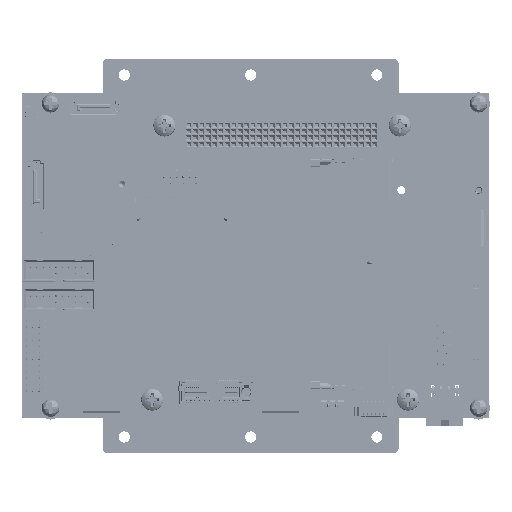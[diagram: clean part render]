
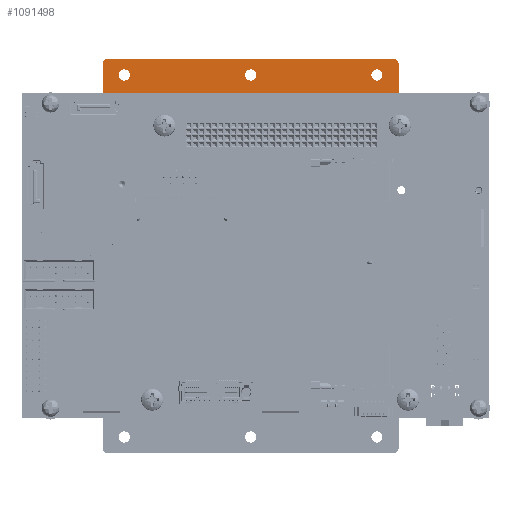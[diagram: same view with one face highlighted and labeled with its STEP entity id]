
A CAD part, top view. The second image highlights one B-rep face of the part: STEP entity #1091498.
In plain terms, the highlighted planar face has unit normal (0, 0, 1) as drawn and (0, -1, 0) by its records, which use the part's own axes.
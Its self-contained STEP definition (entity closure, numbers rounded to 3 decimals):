
#1091087=CARTESIAN_POINT('',(-44.8,0.,-1.5));
#1091088=DIRECTION('',(0.,-1.,0.));
#1091089=DIRECTION('',(0.,0.,1.));
#1091090=AXIS2_PLACEMENT_3D('',#1091087,#1091088,#1091089);
#1091092=DIRECTION('',(1.,0.,0.));
#1091093=VECTOR('',#1091092,89.6);
#1091094=CARTESIAN_POINT('',(-44.8,0.,0.));
#1091095=LINE('',#1091094,#1091093);
#1091096=CARTESIAN_POINT('',(44.8,0.,-1.5));
#1091097=DIRECTION('',(0.,-1.,0.));
#1091098=DIRECTION('',(1.,0.,0.));
#1091099=AXIS2_PLACEMENT_3D('',#1091096,#1091097,#1091098);
#1091101=DIRECTION('',(0.,0.,-1.));
#1091102=VECTOR('',#1091101,16.);
#1091103=CARTESIAN_POINT('',(46.3,0.,-1.5));
#1091104=LINE('',#1091103,#1091102);
#1091105=CARTESIAN_POINT('',(44.8,0.,-17.5));
#1091106=DIRECTION('',(0.,-1.,0.));
#1091107=DIRECTION('',(0.,0.,-1.));
#1091108=AXIS2_PLACEMENT_3D('',#1091105,#1091106,#1091107);
#1091110=DIRECTION('',(-1.,0.,0.));
#1091111=VECTOR('',#1091110,89.6);
#1091112=CARTESIAN_POINT('',(44.8,0.,-19.));
#1091113=LINE('',#1091112,#1091111);
#1091114=CARTESIAN_POINT('',(-44.8,0.,-17.5));
#1091115=DIRECTION('',(0.,-1.,0.));
#1091116=DIRECTION('',(-1.,0.,0.));
#1091117=AXIS2_PLACEMENT_3D('',#1091114,#1091115,#1091116);
#1091119=DIRECTION('',(0.,0.,1.));
#1091120=VECTOR('',#1091119,16.);
#1091121=CARTESIAN_POINT('',(-46.3,0.,-17.5));
#1091122=LINE('',#1091121,#1091120);
#1091123=CARTESIAN_POINT('',(-39.5,0.,-14.));
#1091124=DIRECTION('',(0.,1.,0.));
#1091125=DIRECTION('',(1.,0.,0.));
#1091126=AXIS2_PLACEMENT_3D('',#1091123,#1091124,#1091125);
#1091128=CARTESIAN_POINT('',(-39.5,0.,-14.));
#1091129=DIRECTION('',(0.,1.,0.));
#1091130=DIRECTION('',(-1.,0.,0.));
#1091131=AXIS2_PLACEMENT_3D('',#1091128,#1091129,#1091130);
#1091133=CARTESIAN_POINT('',(39.5,0.,-14.));
#1091134=DIRECTION('',(0.,1.,0.));
#1091135=DIRECTION('',(1.,0.,0.));
#1091136=AXIS2_PLACEMENT_3D('',#1091133,#1091134,#1091135);
#1091138=CARTESIAN_POINT('',(39.5,0.,-14.));
#1091139=DIRECTION('',(0.,1.,0.));
#1091140=DIRECTION('',(-1.,0.,0.));
#1091141=AXIS2_PLACEMENT_3D('',#1091138,#1091139,#1091140);
#1091143=CARTESIAN_POINT('',(0.,0.,-14.));
#1091144=DIRECTION('',(0.,1.,0.));
#1091145=DIRECTION('',(1.,0.,0.));
#1091146=AXIS2_PLACEMENT_3D('',#1091143,#1091144,#1091145);
#1091148=CARTESIAN_POINT('',(0.,0.,-14.));
#1091149=DIRECTION('',(0.,1.,0.));
#1091150=DIRECTION('',(-1.,0.,0.));
#1091151=AXIS2_PLACEMENT_3D('',#1091148,#1091149,#1091150);
#1091153=CARTESIAN_POINT('',(-39.5,0.,-5.));
#1091154=DIRECTION('',(0.,-1.,0.));
#1091155=DIRECTION('',(1.,0.,0.));
#1091156=AXIS2_PLACEMENT_3D('',#1091153,#1091154,#1091155);
#1091158=CARTESIAN_POINT('',(-39.5,0.,-5.));
#1091159=DIRECTION('',(0.,-1.,0.));
#1091160=DIRECTION('',(-1.,0.,0.));
#1091161=AXIS2_PLACEMENT_3D('',#1091158,#1091159,#1091160);
#1091163=CARTESIAN_POINT('',(39.5,0.,-5.));
#1091164=DIRECTION('',(0.,-1.,0.));
#1091165=DIRECTION('',(1.,0.,0.));
#1091166=AXIS2_PLACEMENT_3D('',#1091163,#1091164,#1091165);
#1091168=CARTESIAN_POINT('',(39.5,0.,-5.));
#1091169=DIRECTION('',(0.,-1.,0.));
#1091170=DIRECTION('',(-1.,0.,0.));
#1091171=AXIS2_PLACEMENT_3D('',#1091168,#1091169,#1091170);
#1091173=CARTESIAN_POINT('',(0.,0.,-5.));
#1091174=DIRECTION('',(0.,-1.,0.));
#1091175=DIRECTION('',(1.,0.,0.));
#1091176=AXIS2_PLACEMENT_3D('',#1091173,#1091174,#1091175);
#1091178=CARTESIAN_POINT('',(0.,0.,-5.));
#1091179=DIRECTION('',(0.,-1.,0.));
#1091180=DIRECTION('',(-1.,0.,0.));
#1091181=AXIS2_PLACEMENT_3D('',#1091178,#1091179,#1091180);
#1091359=CARTESIAN_POINT('',(-44.8,0.,0.));
#1091360=CARTESIAN_POINT('',(-46.3,0.,-1.5));
#1091361=VERTEX_POINT('',#1091359);
#1091362=VERTEX_POINT('',#1091360);
#1091367=CARTESIAN_POINT('',(46.3,0.,-1.5));
#1091368=CARTESIAN_POINT('',(44.8,0.,0.));
#1091369=VERTEX_POINT('',#1091367);
#1091370=VERTEX_POINT('',#1091368);
#1091375=CARTESIAN_POINT('',(44.8,0.,-19.));
#1091376=CARTESIAN_POINT('',(46.3,0.,-17.5));
#1091377=VERTEX_POINT('',#1091375);
#1091378=VERTEX_POINT('',#1091376);
#1091383=CARTESIAN_POINT('',(-46.3,0.,-17.5));
#1091384=CARTESIAN_POINT('',(-44.8,0.,-19.));
#1091385=VERTEX_POINT('',#1091383);
#1091386=VERTEX_POINT('',#1091384);
#1091391=CARTESIAN_POINT('',(-37.75,0.,-14.));
#1091392=CARTESIAN_POINT('',(-41.25,0.,-14.));
#1091393=VERTEX_POINT('',#1091391);
#1091394=VERTEX_POINT('',#1091392);
#1091395=CARTESIAN_POINT('',(41.25,0.,-14.));
#1091396=CARTESIAN_POINT('',(37.75,0.,-14.));
#1091397=VERTEX_POINT('',#1091395);
#1091398=VERTEX_POINT('',#1091396);
#1091411=CARTESIAN_POINT('',(-37.75,0.,-5.));
#1091412=CARTESIAN_POINT('',(-41.25,0.,-5.));
#1091413=VERTEX_POINT('',#1091411);
#1091414=VERTEX_POINT('',#1091412);
#1091419=CARTESIAN_POINT('',(41.25,0.,-5.));
#1091420=CARTESIAN_POINT('',(37.75,0.,-5.));
#1091421=VERTEX_POINT('',#1091419);
#1091422=VERTEX_POINT('',#1091420);
#1091423=CARTESIAN_POINT('',(1.75,0.,-14.));
#1091424=CARTESIAN_POINT('',(-1.75,0.,-14.));
#1091425=VERTEX_POINT('',#1091423);
#1091426=VERTEX_POINT('',#1091424);
#1091435=CARTESIAN_POINT('',(1.75,0.,-5.));
#1091436=CARTESIAN_POINT('',(-1.75,0.,-5.));
#1091437=VERTEX_POINT('',#1091435);
#1091438=VERTEX_POINT('',#1091436);
#1091439=CARTESIAN_POINT('',(0.,0.,0.));
#1091440=DIRECTION('',(0.,1.,0.));
#1091441=DIRECTION('',(1.,0.,0.));
#1091442=AXIS2_PLACEMENT_3D('',#1091439,#1091440,#1091441);
#1091443=PLANE('',#1091442);
#1091445=ORIENTED_EDGE('',*,*,#1091444,.F.);
#1091447=ORIENTED_EDGE('',*,*,#1091446,.T.);
#1091449=ORIENTED_EDGE('',*,*,#1091448,.F.);
#1091451=ORIENTED_EDGE('',*,*,#1091450,.T.);
#1091453=ORIENTED_EDGE('',*,*,#1091452,.F.);
#1091455=ORIENTED_EDGE('',*,*,#1091454,.T.);
#1091457=ORIENTED_EDGE('',*,*,#1091456,.F.);
#1091459=ORIENTED_EDGE('',*,*,#1091458,.T.);
#1091460=EDGE_LOOP('',(#1091445,#1091447,#1091449,#1091451,#1091453,#1091455,
#1091457,#1091459));
#1091461=FACE_OUTER_BOUND('',#1091460,.F.);
#1091463=ORIENTED_EDGE('',*,*,#1091462,.F.);
#1091465=ORIENTED_EDGE('',*,*,#1091464,.F.);
#1091466=EDGE_LOOP('',(#1091463,#1091465));
#1091467=FACE_BOUND('',#1091466,.F.);
#1091469=ORIENTED_EDGE('',*,*,#1091468,.F.);
#1091471=ORIENTED_EDGE('',*,*,#1091470,.F.);
#1091472=EDGE_LOOP('',(#1091469,#1091471));
#1091473=FACE_BOUND('',#1091472,.F.);
#1091475=ORIENTED_EDGE('',*,*,#1091474,.F.);
#1091477=ORIENTED_EDGE('',*,*,#1091476,.F.);
#1091478=EDGE_LOOP('',(#1091475,#1091477));
#1091479=FACE_BOUND('',#1091478,.F.);
#1091481=ORIENTED_EDGE('',*,*,#1091480,.T.);
#1091483=ORIENTED_EDGE('',*,*,#1091482,.T.);
#1091484=EDGE_LOOP('',(#1091481,#1091483));
#1091485=FACE_BOUND('',#1091484,.F.);
#1091487=ORIENTED_EDGE('',*,*,#1091486,.T.);
#1091489=ORIENTED_EDGE('',*,*,#1091488,.T.);
#1091490=EDGE_LOOP('',(#1091487,#1091489));
#1091491=FACE_BOUND('',#1091490,.F.);
#1091493=ORIENTED_EDGE('',*,*,#1091492,.T.);
#1091495=ORIENTED_EDGE('',*,*,#1091494,.T.);
#1091496=EDGE_LOOP('',(#1091493,#1091495));
#1091497=FACE_BOUND('',#1091496,.F.);
#1091498=ADVANCED_FACE('',(#1091461,#1091467,#1091473,#1091479,#1091485,
#1091491,#1091497),#1091443,.F.);
#1091091=CIRCLE('',#1091090,1.5);
#1091100=CIRCLE('',#1091099,1.5);
#1091109=CIRCLE('',#1091108,1.5);
#1091118=CIRCLE('',#1091117,1.5);
#1091127=CIRCLE('',#1091126,1.75);
#1091132=CIRCLE('',#1091131,1.75);
#1091137=CIRCLE('',#1091136,1.75);
#1091142=CIRCLE('',#1091141,1.75);
#1091147=CIRCLE('',#1091146,1.75);
#1091152=CIRCLE('',#1091151,1.75);
#1091157=CIRCLE('',#1091156,1.75);
#1091162=CIRCLE('',#1091161,1.75);
#1091167=CIRCLE('',#1091166,1.75);
#1091172=CIRCLE('',#1091171,1.75);
#1091177=CIRCLE('',#1091176,1.75);
#1091182=CIRCLE('',#1091181,1.75);
#1091444=EDGE_CURVE('',#1091361,#1091362,#1091091,.T.);
#1091446=EDGE_CURVE('',#1091361,#1091370,#1091095,.T.);
#1091448=EDGE_CURVE('',#1091369,#1091370,#1091100,.T.);
#1091450=EDGE_CURVE('',#1091369,#1091378,#1091104,.T.);
#1091452=EDGE_CURVE('',#1091377,#1091378,#1091109,.T.);
#1091454=EDGE_CURVE('',#1091377,#1091386,#1091113,.T.);
#1091456=EDGE_CURVE('',#1091385,#1091386,#1091118,.T.);
#1091458=EDGE_CURVE('',#1091385,#1091362,#1091122,.T.);
#1091462=EDGE_CURVE('',#1091393,#1091394,#1091127,.T.);
#1091464=EDGE_CURVE('',#1091394,#1091393,#1091132,.T.);
#1091468=EDGE_CURVE('',#1091397,#1091398,#1091137,.T.);
#1091470=EDGE_CURVE('',#1091398,#1091397,#1091142,.T.);
#1091474=EDGE_CURVE('',#1091425,#1091426,#1091147,.T.);
#1091476=EDGE_CURVE('',#1091426,#1091425,#1091152,.T.);
#1091480=EDGE_CURVE('',#1091413,#1091414,#1091157,.T.);
#1091482=EDGE_CURVE('',#1091414,#1091413,#1091162,.T.);
#1091486=EDGE_CURVE('',#1091421,#1091422,#1091167,.T.);
#1091488=EDGE_CURVE('',#1091422,#1091421,#1091172,.T.);
#1091492=EDGE_CURVE('',#1091437,#1091438,#1091177,.T.);
#1091494=EDGE_CURVE('',#1091438,#1091437,#1091182,.T.);
